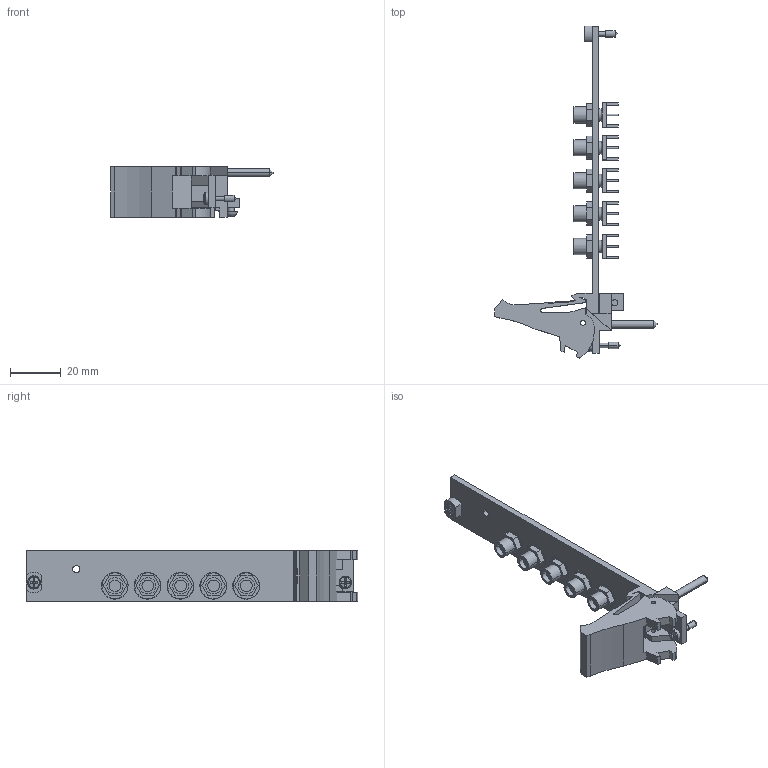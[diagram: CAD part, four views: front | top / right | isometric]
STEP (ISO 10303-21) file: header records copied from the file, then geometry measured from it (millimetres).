
FILE_DESCRIPTION((''),'2;1');
FILE_NAME('CU_PXI-2595','2009-09-08T',('jjorden'),(''),'PRO/ENGINEER BY PARAMETRIC TECHNOLOGY CORPORATION, 2006080','PRO/ENGINEER BY PARAMETRIC TECHNOLOGY CORPORATION, 2006080','');
FILE_SCHEMA(('CONFIG_CONTROL_DESIGN'));
Length unit declared in the file: inch
Products named in the file (1): CU_PXI-2595
Bounding box: 63.73 x 130.5 x 20.02 mm (x, y, z)
Volume: 16319.7 mm3; surface area: 14334 mm2
Topology: 1 solids, 1 shells, 562 faces, 1423 edges, 910 vertices
Faces by surface type: plane 399, cylinder 119, cone 24, sphere 8, torus 6, bspline 6
Entity records: 17159 total; most frequent: CARTESIAN_POINT 3347, DIRECTION 2843, ORIENTED_EDGE 2830, EDGE_CURVE 1415, VECTOR 1045, LINE 1045, VERTEX_POINT 929, AXIS2_PLACEMENT_3D 899
